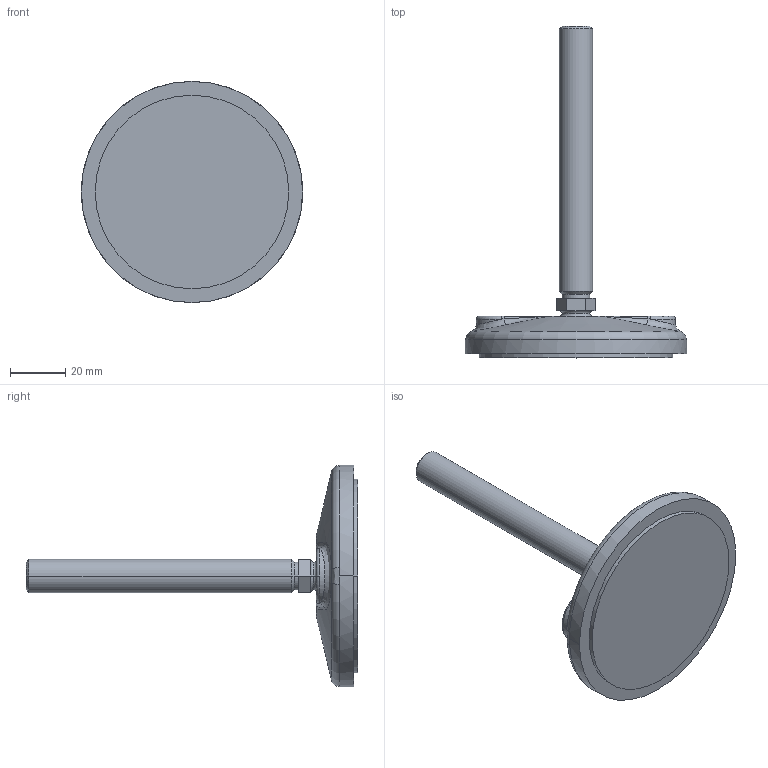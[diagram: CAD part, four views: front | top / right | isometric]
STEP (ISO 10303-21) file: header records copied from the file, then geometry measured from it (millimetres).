
FILE_DESCRIPTION (( 'STEP AP203' ), '1' );
FILE_NAME ('J534890 Adjustable foot M12x122 d80 ZN (01-06-2021).STEP', '2021-06-01T06:27:49', ( '' ), ( '' ), 'SwSTEP 2.0', 'SolidWorks 2020', '' );
FILE_SCHEMA (( 'CONFIG_CONTROL_DESIGN' ));
Length unit declared in the file: millimetre
Products named in the file (1): J534890 Adjustable foot M12x122 d80 ZN (01-06-2021)
Bounding box: 80 x 120 x 80 mm (x, y, z)
Volume: 72171.7 mm3; surface area: 16472.2 mm2
Topology: 1 solids, 1 shells, 61 faces, 138 edges, 82 vertices
Faces by surface type: plane 17, bspline 16, cylinder 11, torus 11, cone 6
Entity records: 2640 total; most frequent: CARTESIAN_POINT 1275, ORIENTED_EDGE 276, DIRECTION 265, EDGE_CURVE 138, AXIS2_PLACEMENT_3D 114, VERTEX_POINT 82, CIRCLE 68, EDGE_LOOP 64
